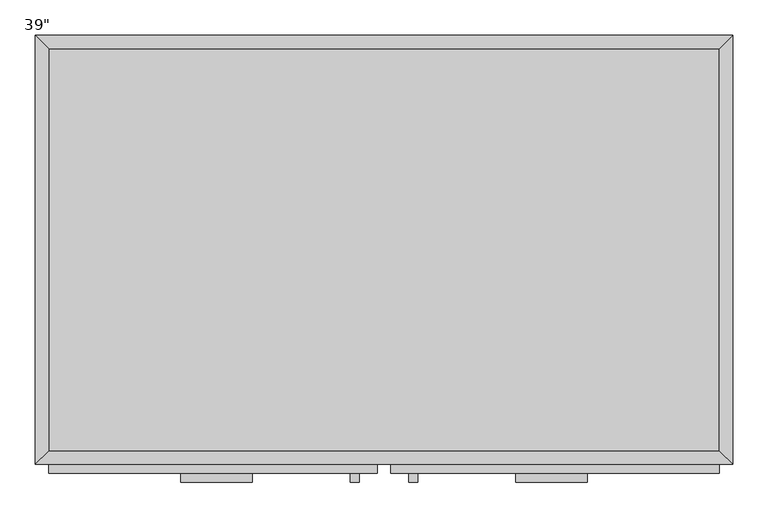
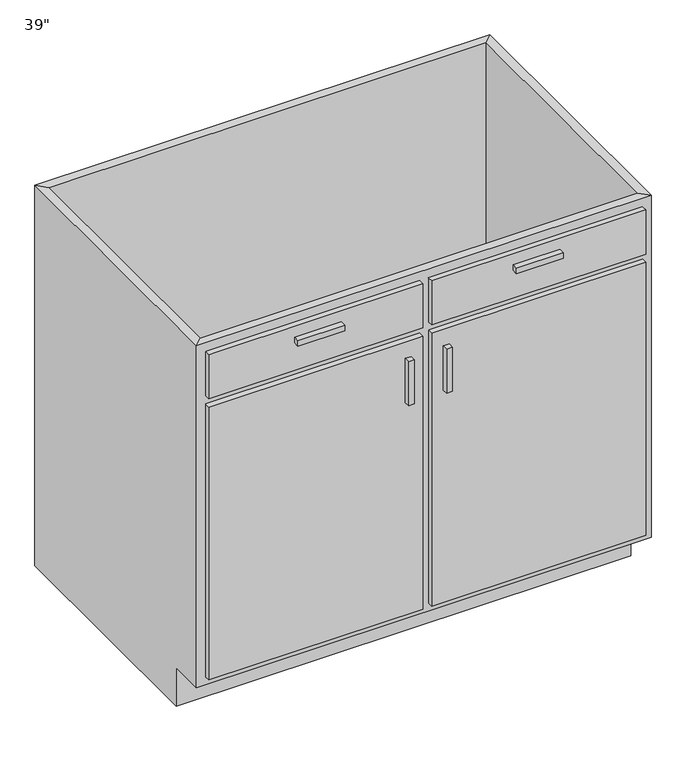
"""IFC4 building model written with IfcOpenShell, lengths in millimetres: furniture geometry."""

import ifcopenshell
import ifcopenshell.guid

model = None  # the IFC model being written
_history = None  # IfcOwnerHistory: only IFC2X3 demands one
_inside = {}  # id of a spatial element -> (the spatial element, [elements in it])
_under = {}  # id of a project, library or spatial element -> (it, [spatial elements below it])
_declared = {}  # id of a project -> (the project, [libraries it declares])
_typed = {}  # id of a type object -> (the type object, [elements of that type])
_made_of = {}  # id of a material, layer set ... -> (it, [elements and type objects made of it])


def new_model(schema):
    """Start an empty IFC model of exactly this schema.

    Asked for "IFC4X3", IfcOpenShell would pick the latest addendum, in which some entities
    have other attributes; the version numbers below select the first issue.
    IFC2X3 requires an IfcOwnerHistory on every rooted entity: one is made here for all.
    """
    global model, _history
    if schema == "IFC4X3":
        model = ifcopenshell.file(schema_version=(4, 3, 0, 0))
    else:
        model = ifcopenshell.file(schema=schema)
    _inside.clear()
    _under.clear()
    _declared.clear()
    _typed.clear()
    _made_of.clear()
    _history = None
    if model.schema == "IFC2X3":
        org = make("IfcOrganization", Name="unknown")
        user = make(
            "IfcPersonAndOrganization",
            ThePerson=make("IfcPerson", FamilyName="unknown"),
            TheOrganization=org,
        )
        app = make(
            "IfcApplication",
            ApplicationDeveloper=org,
            Version="unknown",
            ApplicationFullName="unknown",
            ApplicationIdentifier="unknown",
        )
        _history = make(
            "IfcOwnerHistory",
            OwningUser=user,
            OwningApplication=app,
            ChangeAction="ADDED",
            CreationDate=0,
        )
    return model


def make(cls, **values):
    """One entity of the class cls with the attributes given. An attribute that is None is left unset."""
    return model.create_entity(
        cls, **{name: value for name, value in values.items() if value is not None}
    )


def rooted(cls, **values):
    """An entity with a GlobalId (a new one), such as an element, a storey or a relation."""
    return make(cls, GlobalId=ifcopenshell.guid.new(), OwnerHistory=_history, **values)


def si_unit(unit_type, name, prefix=None):
    """IfcSIUnit, for example si_unit("LENGTHUNIT", "METRE", prefix="MILLI")."""
    return make("IfcSIUnit", UnitType=unit_type, Prefix=prefix, Name=name)


def assignment(units):
    """IfcUnitAssignment: the units of a project."""
    return None if units is None else make("IfcUnitAssignment", Units=units)


def point(xyz):
    """IfcCartesianPoint."""
    return None if xyz is None else make("IfcCartesianPoint", Coordinates=xyz)


def direction(xyz):
    """IfcDirection."""
    return None if xyz is None else make("IfcDirection", DirectionRatios=xyz)


def frame(location, z_axis=None, x_axis=None):
    """IfcAxis2Placement3D, a coordinate frame: its origin and axes. An axis left out is left unset."""
    return make(
        "IfcAxis2Placement3D",
        Location=point(location),
        Axis=direction(z_axis),
        RefDirection=direction(x_axis),
    )


def origin():
    """The frame at (0, 0, 0) with its axes left unset."""
    return frame((0.0, 0.0, 0.0))


def place(relative_to, where):
    """IfcLocalPlacement: puts the frame where relative to a parent placement (None: the world)."""
    return make(
        "IfcLocalPlacement", PlacementRelTo=relative_to, RelativePlacement=where
    )


def context(
    kind, dimensions, precision=None, world=None, true_north=None, identifier=None
):
    """IfcGeometricRepresentationContext, for example the 3D "Model" context."""
    return make(
        "IfcGeometricRepresentationContext",
        ContextIdentifier=identifier,
        ContextType=kind,
        CoordinateSpaceDimension=dimensions,
        Precision=precision,
        WorldCoordinateSystem=world,
        TrueNorth=true_north,
    )


def project(units=None, contexts=None):
    """IfcProject with its units and contexts."""
    return rooted(
        "IfcProject",
        Name="project",
        RepresentationContexts=contexts,
        UnitsInContext=assignment(units),
    )


def spatial(cls, under=None, at=None, **own):
    """A site, building, storey or space (cls), placed at a placement, below another one or the project."""
    s = rooted(cls, ObjectPlacement=at, **own)
    if under is not None:
        _under.setdefault(under.id(), (under, []))[1].append(s)
    return s


def polyline(points):
    """IfcPolyline through the points."""
    return make("IfcPolyline", Points=[point(p) for p in points])


def outline(outer, holes=None, kind="AREA"):
    """IfcArbitraryClosedProfileDef: a profile drawn as a closed curve; with holes, ...WithVoids."""
    if holes is None:
        return make("IfcArbitraryClosedProfileDef", ProfileType=kind, OuterCurve=outer)
    return make(
        "IfcArbitraryProfileDefWithVoids",
        ProfileType=kind,
        OuterCurve=outer,
        InnerCurves=holes,
    )


def extrude(swept, where, along, depth):
    """IfcExtrudedAreaSolid: the profile swept, set in the frame where, extruded along a direction by depth."""
    return make(
        "IfcExtrudedAreaSolid",
        SweptArea=swept,
        Position=where,
        ExtrudedDirection=direction(along),
        Depth=depth,
    )


def faces_of(points, faces, orient=None, outer=None):
    """IfcFace entities. A face is a list of loops; a loop is a list of indices into points, from 0.

    orient and outer hold one flag for each loop. By default every Orientation is true, the
    first loop of a face is its IfcFaceOuterBound and the others are IfcFaceBound.
    """
    made = []
    for i, loops in enumerate(faces):
        bounds = []
        for j, loop in enumerate(loops):
            is_outer = j == 0 if outer is None else outer[i][j]
            bounds.append(
                make(
                    "IfcFaceOuterBound" if is_outer else "IfcFaceBound",
                    Bound=make("IfcPolyLoop", Polygon=[points[k] for k in loop]),
                    Orientation=True if orient is None else orient[i][j],
                )
            )
        made.append(make("IfcFace", Bounds=bounds))
    return made


def faceted_brep(points, faces, orient=None, outer=None, voids=None):
    """IfcFacetedBrep: a solid bounded by flat faces; with voids (closed shells), ...WithVoids."""
    shared = [point(p) for p in points]
    hull = make("IfcClosedShell", CfsFaces=faces_of(shared, faces, orient, outer))
    if voids is None:
        return make("IfcFacetedBrep", Outer=hull)
    return make(
        "IfcFacetedBrepWithVoids",
        Outer=hull,
        Voids=[
            make(cls, CfsFaces=faces_of(shared, fs, o, b)) for cls, fs, o, b in voids
        ],
    )


def shape(context_of_items, identifier, shape_type, items):
    """IfcShapeRepresentation: the items that make up one representation, for example the "Body"."""
    return make(
        "IfcShapeRepresentation",
        ContextOfItems=context_of_items,
        RepresentationIdentifier=identifier,
        RepresentationType=shape_type,
        Items=items,
    )


def source(mapping_origin, context_of_items, identifier, shape_type, items):
    """IfcRepresentationMap: a shape defined once, which mapped items show again and again."""
    return make(
        "IfcRepresentationMap",
        MappingOrigin=mapping_origin,
        MappedRepresentation=shape(context_of_items, identifier, shape_type, items),
    )


def transform(
    local_origin,
    x_axis=None,
    y_axis=None,
    z_axis=None,
    scale=None,
    scale2=None,
    scale3=None,
    uniform=True,
):
    """IfcCartesianTransformationOperator3D, or its non-uniform kind. x_axis, y_axis, z_axis: its Axis1, 2, 3."""
    if uniform:
        return make(
            "IfcCartesianTransformationOperator3D",
            Axis1=direction(x_axis),
            Axis2=direction(y_axis),
            LocalOrigin=point(local_origin),
            Scale=scale,
            Axis3=direction(z_axis),
        )
    return make(
        "IfcCartesianTransformationOperator3DnonUniform",
        Axis1=direction(x_axis),
        Axis2=direction(y_axis),
        LocalOrigin=point(local_origin),
        Scale=scale,
        Axis3=direction(z_axis),
        Scale2=scale2,
        Scale3=scale3,
    )


def mapped(mapping_source, mapping_target):
    """IfcMappedItem: shows the shape of a source again, moved by a transform."""
    return make(
        "IfcMappedItem", MappingSource=mapping_source, MappingTarget=mapping_target
    )


def made_of(thing, what):
    """Note that an element or type object is made of a material, layer set ...; save() writes the relation."""
    if what is not None:
        _made_of.setdefault(what.id(), (what, []))[1].append(thing)
    return thing


def element(
    cls,
    number,
    at=None,
    inside=None,
    cuts=None,
    type_object=None,
    material=None,
    context=None,
    identifier="Body",
    shape_type=None,
    held_by="IfcProductDefinitionShape",
    body=None,
    shapes=None,
    **own,
):
    """One element of the class cls, such as IfcWall. Its Tag is "e" and its number.

    at: its placement. inside: the storey or other place that contains it. cuts: it is an
    opening in that element (IfcRelVoidsElement). A single representation is given by context,
    identifier, shape_type and body (its items); several are given by shapes. held_by: the class
    of the entity that holds the representations. save() writes the other relations.
    """
    e = rooted(cls, Tag="e%d" % number, ObjectPlacement=at, **own)
    if body is not None:
        shapes = [shape(context, identifier, shape_type, body)]
    if shapes is not None:
        e.Representation = make(held_by, Representations=shapes)
    if inside is not None:
        _inside.setdefault(inside.id(), (inside, []))[1].append(e)
    if cuts is not None:
        rooted(
            "IfcRelVoidsElement", RelatingBuildingElement=cuts, RelatedOpeningElement=e
        )
    if type_object is not None:
        _typed.setdefault(type_object.id(), (type_object, []))[1].append(e)
    return made_of(e, material)


def aggregate(whole, parts):
    """IfcRelAggregates: a whole, such as a stair, and the parts it consists of."""
    return rooted("IfcRelAggregates", RelatingObject=whole, RelatedObjects=parts)


def save(model, path):
    """Write the relations noted so far, then the file.

    IfcRelAggregates (storeys below a building ...), IfcRelContainedInSpatialStructure (elements
    in a storey), IfcRelDefinesByType, IfcRelAssociatesMaterial and IfcRelDeclares: one each for
    every whole, place, type object, material and project.
    """
    for whole, parts in _under.values():
        aggregate(whole, parts)
    for where, things in _inside.values():
        rooted(
            "IfcRelContainedInSpatialStructure",
            RelatedElements=things,
            RelatingStructure=where,
        )
    for kind, things in _typed.values():
        rooted("IfcRelDefinesByType", RelatedObjects=things, RelatingType=kind)
    for what, things in _made_of.values():
        rooted("IfcRelAssociatesMaterial", RelatedObjects=things, RelatingMaterial=what)
    for by, libraries in _declared.values():
        rooted("IfcRelDeclares", RelatingContext=by, RelatedDefinitions=libraries)
    model.write(path)


def furniture_b4094f2d(model_context):
    return source(origin(), model_context, "Body", "SolidModel", [
        faceted_brep([(494.9877049, -590.55, 876.3), (494.9877049, -590.55, 88.9), (-457.5122951, -590.55, 88.9), (-457.5122951, -590.55, 876.3), (-476.5622951, -609.6, 876.3), (514.0377049, -609.6, 876.3), (-476.5622951, -609.6, 88.9), (514.0377049, -609.6, 88.9), (-457.5122951, -533.4, 88.9), (-457.5122951, -19.05, 88.9), (-457.5122951, -19.05, 876.3), (-476.5622951, 0.0, 876.3), (-476.5622951, 0.0, 0.0), (-476.5622951, -533.4, 0.0), (-476.5622951, -533.4, 88.9), (494.9877049, -19.05, 88.9), (494.9877049, -19.05, 876.3), (514.0377049, 0.0, 876.3), (514.0377049, 0.0, 0.0), (494.9877049, -533.4, 88.9), (514.0377049, -533.4, 88.9), (514.0377049, -533.4, 0.0)], [[[0, 1, 2, 3]], [[0, 3, 4, 5]], [[5, 4, 6, 7]], [[2, 1, 7, 6]], [[3, 2, 8, 9, 10]], [[4, 3, 10, 11]], [[6, 4, 11, 12, 13, 14]], [[2, 6, 14, 8]], [[10, 9, 15, 16]], [[11, 10, 16, 17]], [[12, 11, 17, 18]], [[1, 0, 16, 15, 19]], [[0, 5, 17, 16]], [[5, 7, 20, 21, 18, 17]], [[7, 1, 19, 20]], [[8, 19, 15, 9]], [[18, 21, 13, 12]], [[13, 21, 20, 19, 8, 14]]]),
        extrude(outline(polyline([(-168.5872951, -635.0), (-270.1872951, -635.0), (-270.1872951, -622.3), (-168.5872951, -622.3), (-168.5872951, -635.0)])), frame((0.0, 0.0, 819.15), z_axis=(0.0, 0.0, 1.0), x_axis=(1.0, 0.0, 0.0)), (0.0, 0.0, 1.0), 12.7),
        extrude(outline(polyline([(307.6627049, -635.0), (206.0627049, -635.0), (206.0627049, -622.3), (307.6627049, -622.3), (307.6627049, -635.0)])), frame((0.0, 0.0, 819.15), z_axis=(0.0, 0.0, 1.0), x_axis=(1.0, 0.0, 0.0)), (0.0, 0.0, 1.0), 12.7),
        extrude(outline(polyline([(-16.1872951, -635.0), (-28.8872951, -635.0), (-28.8872951, -622.3), (-16.1872951, -622.3), (-16.1872951, -635.0)])), frame((0.0, 0.0, 596.9), z_axis=(0.0, 0.0, 1.0), x_axis=(1.0, 0.0, 0.0)), (0.0, 0.0, 1.0), 101.6),
        extrude(outline(polyline([(66.3627049, -635.0), (53.6627049, -635.0), (53.6627049, -622.3), (66.3627049, -622.3), (66.3627049, -635.0)])), frame((0.0, 0.0, 596.9), z_axis=(0.0, 0.0, 1.0), x_axis=(1.0, 0.0, 0.0)), (0.0, 0.0, 1.0), 101.6),
        extrude(outline(polyline([(494.9877049, -19.05), (494.9877049, -590.55), (-457.5122951, -590.55), (-457.5122951, -19.05), (494.9877049, -19.05)])), frame((0.0, 0.0, 88.9), z_axis=(0.0, 0.0, 1.0), x_axis=(1.0, 0.0, 0.0)), (0.0, 0.0, 1.0), 19.05),
        extrude(outline(polyline([(9.2127049, -622.3), (-457.5122951, -622.3), (-457.5122951, -609.6), (9.2127049, -609.6), (9.2127049, -622.3)])), frame((0.0, 0.0, 755.65), z_axis=(0.0, 0.0, 1.0), x_axis=(1.0, 0.0, 0.0)), (0.0, 0.0, 1.0), 101.6),
        extrude(outline(polyline([(494.9877049, -622.3), (28.2627049, -622.3), (28.2627049, -609.6), (494.9877049, -609.6), (494.9877049, -622.3)])), frame((0.0, 0.0, 755.65), z_axis=(0.0, 0.0, 1.0), x_axis=(1.0, 0.0, 0.0)), (0.0, 0.0, 1.0), 101.6),
        extrude(outline(polyline([(9.2127049, -622.3), (-457.5122951, -622.3), (-457.5122951, -609.6), (9.2127049, -609.6), (9.2127049, -622.3)])), frame((0.0, 0.0, 107.95), z_axis=(0.0, 0.0, 1.0), x_axis=(1.0, 0.0, 0.0)), (0.0, 0.0, 1.0), 628.65),
        extrude(outline(polyline([(494.9877049, -622.3), (28.2627049, -622.3), (28.2627049, -609.6), (494.9877049, -609.6), (494.9877049, -622.3)])), frame((0.0, 0.0, 107.95), z_axis=(0.0, 0.0, 1.0), x_axis=(1.0, 0.0, 0.0)), (0.0, 0.0, 1.0), 628.65),
    ])


if __name__ == "__main__":
    model = new_model("IFC4")
    model_context = context("Model", 3, world=origin())
    ifc_project = project(units=[si_unit("LENGTHUNIT", "METRE", prefix="MILLI")], contexts=[model_context])
    site = spatial("IfcSite", under=ifc_project)
    building = spatial("IfcBuilding", under=site)
    placement = place(None, origin())
    furniture_shape = furniture_b4094f2d(model_context)
    element("IfcFurniture", 1, ObjectType="Base Cabinet-Double Door & 2 Drawer : 39\"", at=placement, inside=building, context=model_context, shape_type="MappedRepresentation", body=[
        mapped(furniture_shape, transform((0.0, 0.0, 0.0), x_axis=(1.0, 0.0, 0.0), y_axis=(0.0, 1.0, 0.0), z_axis=(0.0, 0.0, 1.0))),
    ])
    save(model, "model.ifc")
